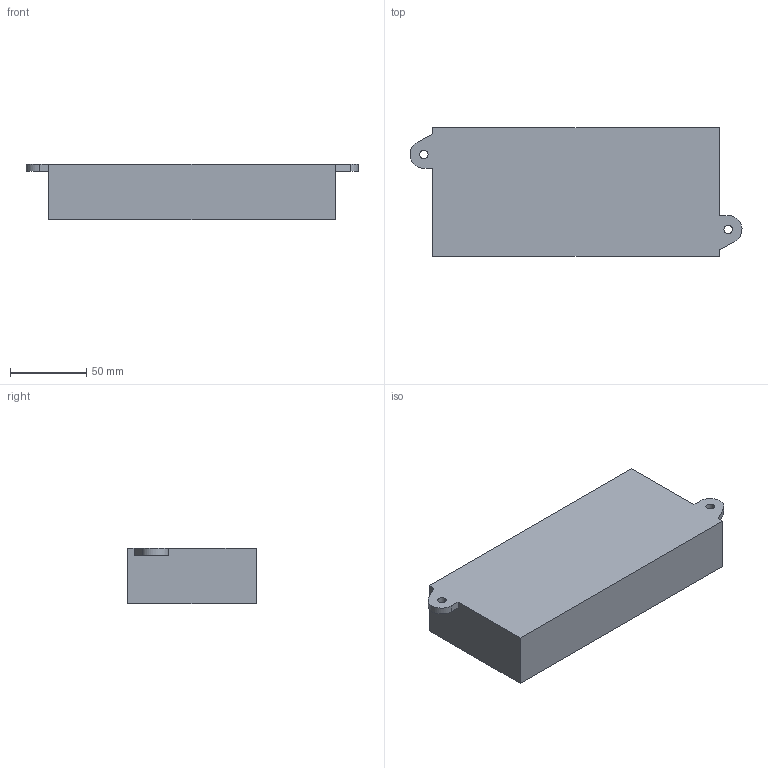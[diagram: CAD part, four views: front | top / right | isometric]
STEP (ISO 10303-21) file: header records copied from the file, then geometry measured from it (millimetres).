
FILE_DESCRIPTION( ( 'STEP AP214' ), '1' );
FILE_NAME( 'D:/Yug/2021/Delta/Office_furniture_systems/QC/9262098.stp', '2021-03-26T07:39:40', ( '' ), ( '' ), ' ', 'PARTsolutions', ' ' );
FILE_SCHEMA( ( 'AUTOMOTIVE_DESIGN { 1 0 10303 214 1 1 1 1 }' ) );
Length unit declared in the file: millimetre
Products named in the file (1): _9262098
Bounding box: 218.16 x 84.52 x 36.51 mm (x, y, z)
Volume: 583116.9 mm3; surface area: 53009.9 mm2
Topology: 1 solids, 1 shells, 16 faces, 42 edges, 28 vertices
Faces by surface type: plane 12, cylinder 4
Full cylindrical faces by diameter (mm): 5.5 x2
Entity records: 636 total; most frequent: CARTESIAN_POINT 85, DIRECTION 82, ORIENTED_EDGE 80, EDGE_CURVE 40, LINE 32, VECTOR 32, VERTEX_POINT 28, AXIS2_PLACEMENT_3D 25
